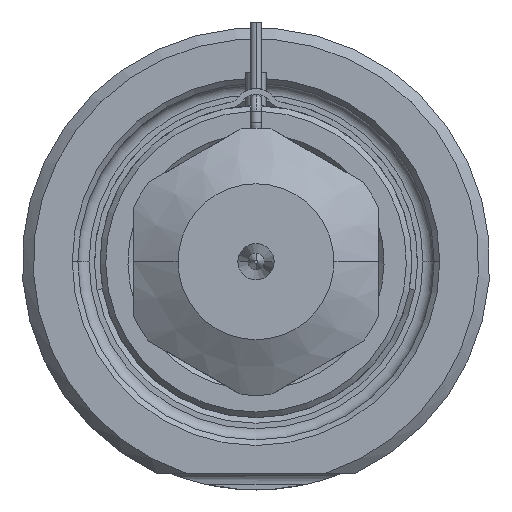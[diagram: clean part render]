
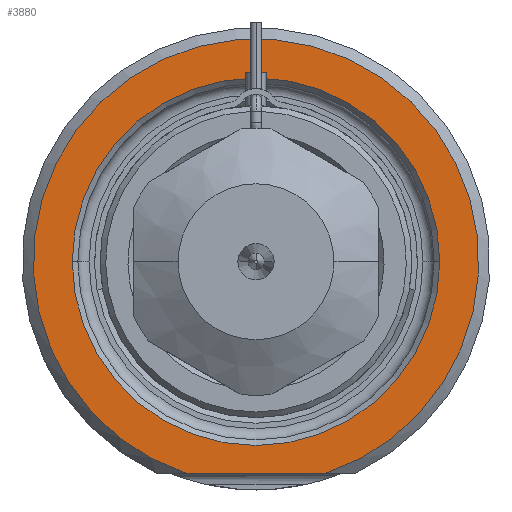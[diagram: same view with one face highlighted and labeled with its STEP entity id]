
A CAD part, front view. The second image highlights one B-rep face of the part: STEP entity #3880.
In plain terms, the highlighted planar face has unit normal (0, -1, 0).
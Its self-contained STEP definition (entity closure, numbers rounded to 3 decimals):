
#1=DIRECTION('',(1.,0.,0.));
#2=VECTOR('',#1,12.49);
#3=CARTESIAN_POINT('',(-6.245,0.,-19.));
#4=LINE('',#3,#2);
#5=CARTESIAN_POINT('',(0.,0.,0.));
#6=DIRECTION('',(0.,1.,0.));
#7=DIRECTION('',(-1.,0.,0.));
#8=AXIS2_PLACEMENT_3D('',#5,#6,#7);
#10=CARTESIAN_POINT('',(0.,0.,0.));
#11=DIRECTION('',(0.,1.,0.));
#12=DIRECTION('',(1.,0.,0.));
#13=AXIS2_PLACEMENT_3D('',#10,#11,#12);
#119=CARTESIAN_POINT('',(0.,0.,0.));
#120=DIRECTION('',(0.,-1.,0.));
#121=DIRECTION('',(0.312,0.,-0.95));
#122=AXIS2_PLACEMENT_3D('',#119,#120,#121);
#3248=CARTESIAN_POINT('',(-16.5,0.,0.));
#3249=CARTESIAN_POINT('',(16.5,0.,0.));
#3250=VERTEX_POINT('',#3248);
#3251=VERTEX_POINT('',#3249);
#3288=CARTESIAN_POINT('',(-6.245,0.,-19.));
#3289=CARTESIAN_POINT('',(6.245,0.,-19.));
#3290=VERTEX_POINT('',#3288);
#3291=VERTEX_POINT('',#3289);
#3863=CARTESIAN_POINT('',(0.,0.,0.));
#3864=DIRECTION('',(0.,-1.,0.));
#3865=DIRECTION('',(1.,0.,0.));
#3866=AXIS2_PLACEMENT_3D('',#3863,#3864,#3865);
#3867=PLANE('',#3866);
#3869=ORIENTED_EDGE('',*,*,#3868,.F.);
#3871=ORIENTED_EDGE('',*,*,#3870,.F.);
#3872=EDGE_LOOP('',(#3869,#3871));
#3873=FACE_OUTER_BOUND('',#3872,.F.);
#3875=ORIENTED_EDGE('',*,*,#3874,.F.);
#3877=ORIENTED_EDGE('',*,*,#3876,.F.);
#3878=EDGE_LOOP('',(#3875,#3877));
#3879=FACE_BOUND('',#3878,.F.);
#3880=ADVANCED_FACE('',(#3873,#3879),#3867,.T.);
#9=CIRCLE('',#8,16.5);
#14=CIRCLE('',#13,16.5);
#123=CIRCLE('',#122,20.);
#3868=EDGE_CURVE('',#3290,#3291,#4,.T.);
#3870=EDGE_CURVE('',#3291,#3290,#123,.T.);
#3874=EDGE_CURVE('',#3250,#3251,#9,.T.);
#3876=EDGE_CURVE('',#3251,#3250,#14,.T.);
